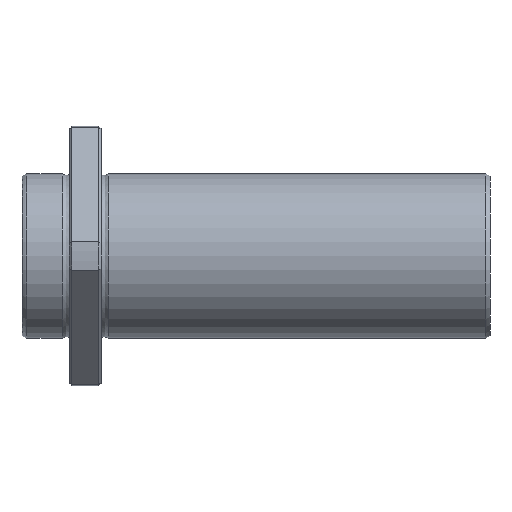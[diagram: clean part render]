
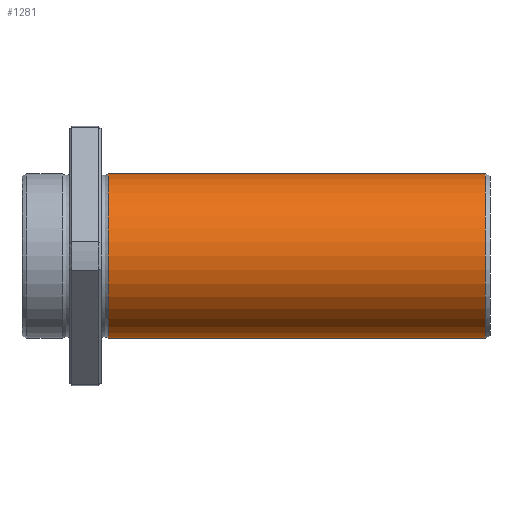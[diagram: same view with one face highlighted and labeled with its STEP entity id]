
A CAD part, front view. The second image highlights one B-rep face of the part: STEP entity #1281.
In plain terms, the highlighted cylindrical face has radius 26 mm (diameter 52 mm), a full revolution.
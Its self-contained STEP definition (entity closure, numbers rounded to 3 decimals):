
#1247=CARTESIAN_POINT('',(146.502,0.0,26.));
#1248=VERTEX_POINT('',#1247);
#1249=CARTESIAN_POINT('',(146.502,0.0,0.0));
#1250=DIRECTION('',(-1.0,0.0,0.0));
#1251=DIRECTION('',(0.0,0.0,1.0));
#1252=AXIS2_PLACEMENT_3D('',#1249,#1250,#1251);
#1253=CIRCLE('',#1252,26.);
#1254=EDGE_CURVE('',#1248,#1248,#1253,.T.);
#1262=CARTESIAN_POINT('',(86.862,0.0,0.0));
#1263=DIRECTION('',(-1.0,0.0,0.0));
#1264=DIRECTION('',(0.0,0.0,1.0));
#1265=AXIS2_PLACEMENT_3D('',#1262,#1263,#1264);
#1266=CYLINDRICAL_SURFACE('',#1265,26.);
#1267=CARTESIAN_POINT('',(27.223,0.0,26.));
#1268=VERTEX_POINT('',#1267);
#1269=CARTESIAN_POINT('',(27.223,0.0,0.0));
#1270=DIRECTION('',(-1.0,0.0,0.0));
#1271=DIRECTION('',(0.0,0.0,1.0));
#1272=AXIS2_PLACEMENT_3D('',#1269,#1270,#1271);
#1273=CIRCLE('',#1272,26.);
#1274=EDGE_CURVE('',#1268,#1268,#1273,.T.);
#1275=ORIENTED_EDGE('',*,*,#1274,.F.);
#1276=EDGE_LOOP('',(#1275));
#1277=FACE_OUTER_BOUND('',#1276,.T.);
#1278=ORIENTED_EDGE('',*,*,#1254,.T.);
#1279=EDGE_LOOP('',(#1278));
#1280=FACE_BOUND('',#1279,.T.);
#1281=ADVANCED_FACE('',(#1277,#1280),#1266,.T.);
